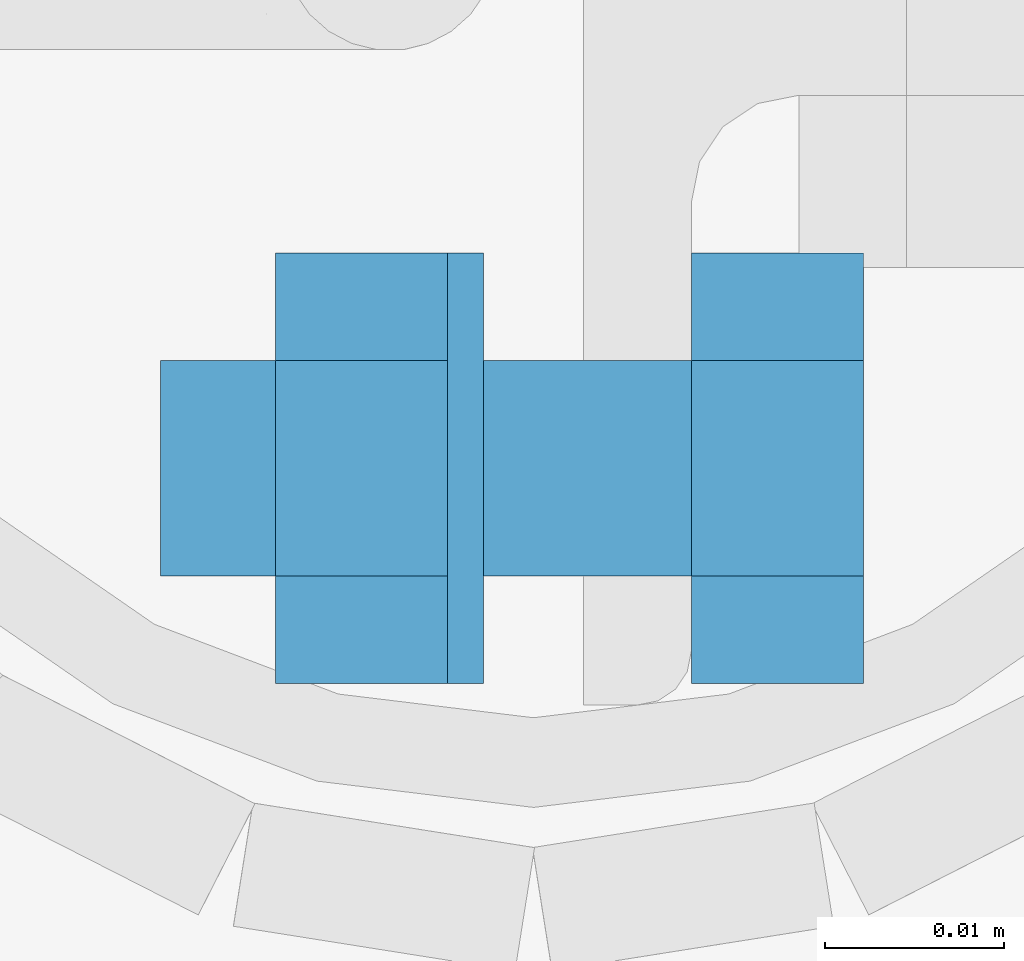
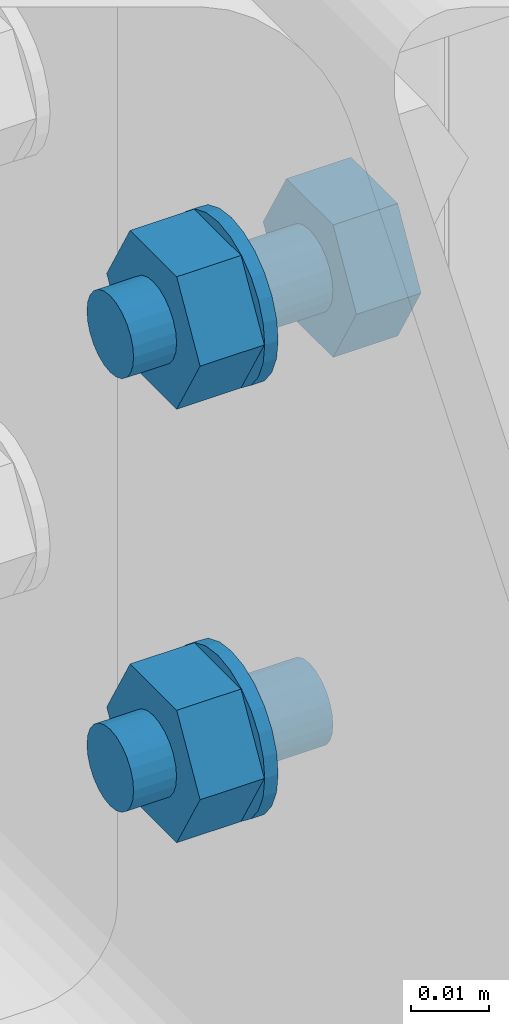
# One storey, part 19 of 84: 7 mechanical fasteners.
"""IFC4 building model written with IfcOpenShell, lengths in metres."""

import ifcopenshell
import ifcopenshell.guid

model = None  # the IFC model being written
_history = None  # IfcOwnerHistory: only IFC2X3 demands one
_inside = {}  # id of a spatial element -> (the spatial element, [elements in it])
_under = {}  # id of a project, library or spatial element -> (it, [spatial elements below it])
_declared = {}  # id of a project -> (the project, [libraries it declares])
_typed = {}  # id of a type object -> (the type object, [elements of that type])
_made_of = {}  # id of a material, layer set ... -> (it, [elements and type objects made of it])


def new_model(schema):
    """Start an empty IFC model of exactly this schema.

    Asked for "IFC4X3", IfcOpenShell would pick the latest addendum, in which some entities
    have other attributes; the version numbers below select the first issue.
    IFC2X3 requires an IfcOwnerHistory on every rooted entity: one is made here for all.
    """
    global model, _history
    if schema == "IFC4X3":
        model = ifcopenshell.file(schema_version=(4, 3, 0, 0))
    else:
        model = ifcopenshell.file(schema=schema)
    _inside.clear()
    _under.clear()
    _declared.clear()
    _typed.clear()
    _made_of.clear()
    _history = None
    if model.schema == "IFC2X3":
        org = make("IfcOrganization", Name="unknown")
        user = make(
            "IfcPersonAndOrganization",
            ThePerson=make("IfcPerson", FamilyName="unknown"),
            TheOrganization=org,
        )
        app = make(
            "IfcApplication",
            ApplicationDeveloper=org,
            Version="unknown",
            ApplicationFullName="unknown",
            ApplicationIdentifier="unknown",
        )
        _history = make(
            "IfcOwnerHistory",
            OwningUser=user,
            OwningApplication=app,
            ChangeAction="ADDED",
            CreationDate=0,
        )
    return model


def make(cls, **values):
    """One entity of the class cls with the attributes given. An attribute that is None is left unset."""
    return model.create_entity(
        cls, **{name: value for name, value in values.items() if value is not None}
    )


def rooted(cls, **values):
    """An entity with a GlobalId (a new one), such as an element, a storey or a relation."""
    return make(cls, GlobalId=ifcopenshell.guid.new(), OwnerHistory=_history, **values)


def si_unit(unit_type, name, prefix=None):
    """IfcSIUnit, for example si_unit("LENGTHUNIT", "METRE", prefix="MILLI")."""
    return make("IfcSIUnit", UnitType=unit_type, Prefix=prefix, Name=name)


def assignment(units):
    """IfcUnitAssignment: the units of a project."""
    return None if units is None else make("IfcUnitAssignment", Units=units)


def point(xyz):
    """IfcCartesianPoint."""
    return None if xyz is None else make("IfcCartesianPoint", Coordinates=xyz)


def direction(xyz):
    """IfcDirection."""
    return None if xyz is None else make("IfcDirection", DirectionRatios=xyz)


def frame(location, z_axis=None, x_axis=None):
    """IfcAxis2Placement3D, a coordinate frame: its origin and axes. An axis left out is left unset."""
    return make(
        "IfcAxis2Placement3D",
        Location=point(location),
        Axis=direction(z_axis),
        RefDirection=direction(x_axis),
    )


def origin_with_axes():
    """The frame at (0, 0, 0) with the z axis (0, 0, 1) and the x axis (1, 0, 0) written out."""
    return frame((0.0, 0.0, 0.0), z_axis=(0.0, 0.0, 1.0), x_axis=(1.0, 0.0, 0.0))


def place(relative_to, where):
    """IfcLocalPlacement: puts the frame where relative to a parent placement (None: the world)."""
    return make(
        "IfcLocalPlacement", PlacementRelTo=relative_to, RelativePlacement=where
    )


def context(
    kind, dimensions, precision=None, world=None, true_north=None, identifier=None
):
    """IfcGeometricRepresentationContext, for example the 3D "Model" context."""
    return make(
        "IfcGeometricRepresentationContext",
        ContextIdentifier=identifier,
        ContextType=kind,
        CoordinateSpaceDimension=dimensions,
        Precision=precision,
        WorldCoordinateSystem=world,
        TrueNorth=true_north,
    )


def project(units=None, contexts=None):
    """IfcProject with its units and contexts."""
    return rooted(
        "IfcProject",
        Name="project",
        RepresentationContexts=contexts,
        UnitsInContext=assignment(units),
    )


def spatial(cls, under=None, at=None, **own):
    """A site, building, storey or space (cls), placed at a placement, below another one or the project."""
    s = rooted(cls, ObjectPlacement=at, **own)
    if under is not None:
        _under.setdefault(under.id(), (under, []))[1].append(s)
    return s


def polyline(points):
    """IfcPolyline through the points."""
    return make("IfcPolyline", Points=[point(p) for p in points])


def outline(outer, holes=None, kind="AREA"):
    """IfcArbitraryClosedProfileDef: a profile drawn as a closed curve; with holes, ...WithVoids."""
    if holes is None:
        return make("IfcArbitraryClosedProfileDef", ProfileType=kind, OuterCurve=outer)
    return make(
        "IfcArbitraryProfileDefWithVoids",
        ProfileType=kind,
        OuterCurve=outer,
        InnerCurves=holes,
    )


def extrude(swept, where, along, depth):
    """IfcExtrudedAreaSolid: the profile swept, set in the frame where, extruded along a direction by depth."""
    return make(
        "IfcExtrudedAreaSolid",
        SweptArea=swept,
        Position=where,
        ExtrudedDirection=direction(along),
        Depth=depth,
    )


def shape(context_of_items, identifier, shape_type, items):
    """IfcShapeRepresentation: the items that make up one representation, for example the "Body"."""
    return make(
        "IfcShapeRepresentation",
        ContextOfItems=context_of_items,
        RepresentationIdentifier=identifier,
        RepresentationType=shape_type,
        Items=items,
    )


def made_of(thing, what):
    """Note that an element or type object is made of a material, layer set ...; save() writes the relation."""
    if what is not None:
        _made_of.setdefault(what.id(), (what, []))[1].append(thing)
    return thing


def type_object(cls, material=None, **own):
    """A type object (cls), such as IfcWallType, which elements share."""
    return made_of(rooted(cls, **own), material)


def element(
    cls,
    number,
    at=None,
    inside=None,
    cuts=None,
    type_object=None,
    material=None,
    context=None,
    identifier="Body",
    shape_type=None,
    held_by="IfcProductDefinitionShape",
    body=None,
    shapes=None,
    **own,
):
    """One element of the class cls, such as IfcWall. Its Tag is "e" and its number.

    at: its placement. inside: the storey or other place that contains it. cuts: it is an
    opening in that element (IfcRelVoidsElement). A single representation is given by context,
    identifier, shape_type and body (its items); several are given by shapes. held_by: the class
    of the entity that holds the representations. save() writes the other relations.
    """
    e = rooted(cls, Tag="e%d" % number, ObjectPlacement=at, **own)
    if body is not None:
        shapes = [shape(context, identifier, shape_type, body)]
    if shapes is not None:
        e.Representation = make(held_by, Representations=shapes)
    if inside is not None:
        _inside.setdefault(inside.id(), (inside, []))[1].append(e)
    if cuts is not None:
        rooted(
            "IfcRelVoidsElement", RelatingBuildingElement=cuts, RelatedOpeningElement=e
        )
    if type_object is not None:
        _typed.setdefault(type_object.id(), (type_object, []))[1].append(e)
    return made_of(e, material)


def aggregate(whole, parts):
    """IfcRelAggregates: a whole, such as a stair, and the parts it consists of."""
    return rooted("IfcRelAggregates", RelatingObject=whole, RelatedObjects=parts)


def save(model, path):
    """Write the relations noted so far, then the file.

    IfcRelAggregates (storeys below a building ...), IfcRelContainedInSpatialStructure (elements
    in a storey), IfcRelDefinesByType, IfcRelAssociatesMaterial and IfcRelDeclares: one each for
    every whole, place, type object, material and project.
    """
    for whole, parts in _under.values():
        aggregate(whole, parts)
    for where, things in _inside.values():
        rooted(
            "IfcRelContainedInSpatialStructure",
            RelatedElements=things,
            RelatingStructure=where,
        )
    for kind, things in _typed.values():
        rooted("IfcRelDefinesByType", RelatedObjects=things, RelatingType=kind)
    for what, things in _made_of.values():
        rooted("IfcRelAssociatesMaterial", RelatedObjects=things, RelatingMaterial=what)
    for by, libraries in _declared.values():
        rooted("IfcRelDeclares", RelatingContext=by, RelatedDefinitions=libraries)
    model.write(path)


model = new_model("IFC4")

# Units and contexts
model_context = context("Model", 3, precision=1e-05, world=origin_with_axes())
ifc_project = project(units=[si_unit("LENGTHUNIT", "METRE"), si_unit("AREAUNIT", "SQUARE_METRE"), si_unit("VOLUMEUNIT", "CUBIC_METRE"), si_unit("MASSUNIT", "GRAM", prefix="KILO"), si_unit("TIMEUNIT", "SECOND"), si_unit("PLANEANGLEUNIT", "RADIAN"), si_unit("SOLIDANGLEUNIT", "STERADIAN"), si_unit("THERMODYNAMICTEMPERATUREUNIT", "DEGREE_CELSIUS")], contexts=[model_context])

# Site, building, storey
placement_1 = place(None, origin_with_axes())
site = spatial("IfcSite", under=ifc_project, at=placement_1, Name="Italia", CompositionType="ELEMENT")
building = spatial("IfcBuilding", under=site, at=placement_1, Name="Tettoia", CompositionType="ELEMENT")
storey_placement = place(None, frame((0.0, 0.0, 4.199999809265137), z_axis=(0.0, 0.0, 1.0), x_axis=(1.0, 0.0, 0.0)))
storey = spatial("IfcBuildingStorey", under=building, at=storey_placement, Name="Storey 1", CompositionType="ELEMENT", Elevation=4.199999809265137)

# Mechanical fasteners
mechanical_fastener_type_1 = type_object("IfcMechanicalFastenerType", Name="Collegamento 0101_0102", PredefinedType="BOLT")
placement_2 = place(placement_1, origin_with_axes())
mechanical_fastener_1_placement = place(placement_2, origin_with_axes())
element("IfcMechanicalFastener", 1, at=mechanical_fastener_1_placement, inside=storey, type_object=mechanical_fastener_type_1, Name="Collegamento 0101_0102", NominalDiameter=0.012, context=model_context, shape_type="SweptSolid", body=[
    extrude(outline(polyline([(0.0, 0.0), (-0.000204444, -0.00155306), (-0.000803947, -0.00299978), (-0.00175738, -0.00424242), (-0.00300002, -0.00519609), (-0.0044471, -0.00579548), (-0.00600004, -0.00600004), (-0.00755298, -0.00579548), (-0.00900006, -0.00519609), (-0.0102427, -0.00424242), (-0.0111961, -0.00299978), (-0.0117956, -0.00155306), (-0.0120001, 0.0), (-0.0117956, 0.00155306), (-0.0111961, 0.00299978), (-0.0102427, 0.00424242), (-0.00900006, 0.00519609), (-0.00755298, 0.00579548), (-0.00600004, 0.00600004), (-0.0044471, 0.00579548), (-0.00300002, 0.00519609), (-0.00175738, 0.00424242), (-0.000803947, 0.00299978), (-0.000204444, 0.00155306), (0.0, 0.0)])), frame((8.2988, 1.9647, 4.266), z_axis=(-1.0, 0.0, 0.0), x_axis=(0.0, -1.0, 0.0)), (0.0, 0.0, 1.0), 0.0295992),
])
mechanical_fastener_type_2 = type_object("IfcMechanicalFastenerType", Name="Collegamento 0101_0102", PredefinedType="BOLT")
mechanical_fastener_2_placement = place(placement_2, origin_with_axes())
element("IfcMechanicalFastener", 2, at=mechanical_fastener_2_placement, inside=storey, type_object=mechanical_fastener_type_2, Name="Collegamento 0101_0102", NominalDiameter=0.0119999, context=model_context, shape_type="SweptSolid", body=[
    extrude(outline(polyline([(0.0, 0.0), (-0.012, 0.0), (-0.018, 0.0103922), (-0.012, 0.0207844), (0.0, 0.0207844), (0.00600004, 0.0103922), (0.0, 0.0)])), frame((8.2852, 1.9647, 4.25561), z_axis=(-1.0, 0.0, 0.0), x_axis=(0.0, -1.0, 0.0)), (0.0, 0.0, 1.0), 0.00960064),
])
mechanical_fastener_type_3 = type_object("IfcMechanicalFastenerType", Name="Collegamento 0101_0102", PredefinedType="BOLT")
mechanical_fastener_3_placement = place(placement_2, origin_with_axes())
element("IfcMechanicalFastener", 3, at=mechanical_fastener_3_placement, inside=storey, type_object=mechanical_fastener_type_3, Name="Collegamento 0101_0102", NominalDiameter=0.024, context=model_context, shape_type="SweptSolid", body=[
    extrude(outline(polyline([(0.0, 0.0), (-0.000408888, -0.00310564), (-0.00160766, -0.00600004), (-0.00351465, -0.00848532), (-0.00599992, -0.0103922), (-0.00889409, -0.011591), (-0.012, -0.0120001), (-0.0151058, -0.011591), (-0.018, -0.0103922), (-0.0204853, -0.00848532), (-0.0223923, -0.00600004), (-0.023591, -0.00310564), (-0.0239999, 0.0), (-0.023591, 0.00310564), (-0.0223923, 0.00600004), (-0.0204853, 0.00848532), (-0.018, 0.0103922), (-0.0151058, 0.011591), (-0.012, 0.0120001), (-0.00889409, 0.011591), (-0.00599992, 0.0103922), (-0.00351465, 0.00848532), (-0.00160766, 0.00600004), (-0.000408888, 0.00310564), (0.0, 0.0)])), frame((8.2872, 1.9587, 4.266), z_axis=(-1.0, 0.0, 0.0), x_axis=(0.0, -1.0, 0.0)), (0.0, 0.0, 1.0), 0.00199986),
])
mechanical_fastener_type_4 = type_object("IfcMechanicalFastenerType", Name="Collegamento 0101_0102", PredefinedType="BOLT")
mechanical_fastener_4_placement = place(placement_2, origin_with_axes())
element("IfcMechanicalFastener", 4, at=mechanical_fastener_4_placement, inside=storey, type_object=mechanical_fastener_type_4, Name="Collegamento 0101_0102", NominalDiameter=0.0119999, context=model_context, shape_type="SweptSolid", body=[
    extrude(outline(polyline([(0.0, 0.0), (-0.012, 0.0), (-0.018, 0.0103922), (-0.012, 0.0207844), (0.0, 0.0207844), (0.00600004, 0.0103922), (0.0, 0.0)])), frame((8.3084, 1.9647, 4.32361), z_axis=(-1.0, 0.0, 0.0), x_axis=(0.0, -1.0, 0.0)), (0.0, 0.0, 1.0), 0.00960064),
])
mechanical_fastener_type_5 = type_object("IfcMechanicalFastenerType", Name="Collegamento 0101_0102", PredefinedType="BOLT")
mechanical_fastener_5_placement = place(placement_2, origin_with_axes())
element("IfcMechanicalFastener", 5, at=mechanical_fastener_5_placement, inside=storey, type_object=mechanical_fastener_type_5, Name="Collegamento 0101_0102", NominalDiameter=0.012, context=model_context, shape_type="SweptSolid", body=[
    extrude(outline(polyline([(0.0, 0.0), (-0.000204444, -0.00155306), (-0.000803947, -0.00299978), (-0.00175738, -0.00424242), (-0.00300002, -0.00519609), (-0.0044471, -0.00579548), (-0.00600004, -0.00600004), (-0.00755298, -0.00579548), (-0.00900006, -0.00519609), (-0.0102427, -0.00424242), (-0.0111961, -0.00299978), (-0.0117956, -0.00155306), (-0.0120001, 0.0), (-0.0117956, 0.00155306), (-0.0111961, 0.00299978), (-0.0102427, 0.00424242), (-0.00900006, 0.00519609), (-0.00755298, 0.00579548), (-0.00600004, 0.00600004), (-0.0044471, 0.00579548), (-0.00300002, 0.00519609), (-0.00175738, 0.00424242), (-0.000803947, 0.00299978), (-0.000204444, 0.00155306), (0.0, 0.0)])), frame((8.2988, 1.9647, 4.334), z_axis=(-1.0, 0.0, 0.0), x_axis=(0.0, -1.0, 0.0)), (0.0, 0.0, 1.0), 0.0295992),
])
mechanical_fastener_type_6 = type_object("IfcMechanicalFastenerType", Name="Collegamento 0101_0102", PredefinedType="BOLT")
mechanical_fastener_6_placement = place(placement_2, origin_with_axes())
element("IfcMechanicalFastener", 6, at=mechanical_fastener_6_placement, inside=storey, type_object=mechanical_fastener_type_6, Name="Collegamento 0101_0102", NominalDiameter=0.0119999, context=model_context, shape_type="SweptSolid", body=[
    extrude(outline(polyline([(0.0, 0.0), (-0.012, 0.0), (-0.018, 0.0103922), (-0.012, 0.0207844), (0.0, 0.0207844), (0.00600004, 0.0103922), (0.0, 0.0)])), frame((8.2852, 1.9647, 4.32361), z_axis=(-1.0, 0.0, 0.0), x_axis=(0.0, -1.0, 0.0)), (0.0, 0.0, 1.0), 0.00960064),
])
mechanical_fastener_type_7 = type_object("IfcMechanicalFastenerType", Name="Collegamento 0101_0102", PredefinedType="BOLT")
mechanical_fastener_7_placement = place(placement_2, origin_with_axes())
element("IfcMechanicalFastener", 7, at=mechanical_fastener_7_placement, inside=storey, type_object=mechanical_fastener_type_7, Name="Collegamento 0101_0102", NominalDiameter=0.024, context=model_context, shape_type="SweptSolid", body=[
    extrude(outline(polyline([(0.0, 0.0), (-0.000408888, -0.00310564), (-0.00160766, -0.00600004), (-0.00351465, -0.00848532), (-0.00599992, -0.0103922), (-0.00889409, -0.011591), (-0.012, -0.0120001), (-0.0151058, -0.011591), (-0.018, -0.0103922), (-0.0204853, -0.00848532), (-0.0223923, -0.00600004), (-0.023591, -0.00310564), (-0.0239999, 0.0), (-0.023591, 0.00310564), (-0.0223923, 0.00600004), (-0.0204853, 0.00848532), (-0.018, 0.0103922), (-0.0151058, 0.011591), (-0.012, 0.0120001), (-0.00889409, 0.011591), (-0.00599992, 0.0103922), (-0.00351465, 0.00848532), (-0.00160766, 0.00600004), (-0.000408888, 0.00310564), (0.0, 0.0)])), frame((8.2872, 1.9587, 4.334), z_axis=(-1.0, 0.0, 0.0), x_axis=(0.0, -1.0, 0.0)), (0.0, 0.0, 1.0), 0.00199986),
])

save(model, "model.ifc")
